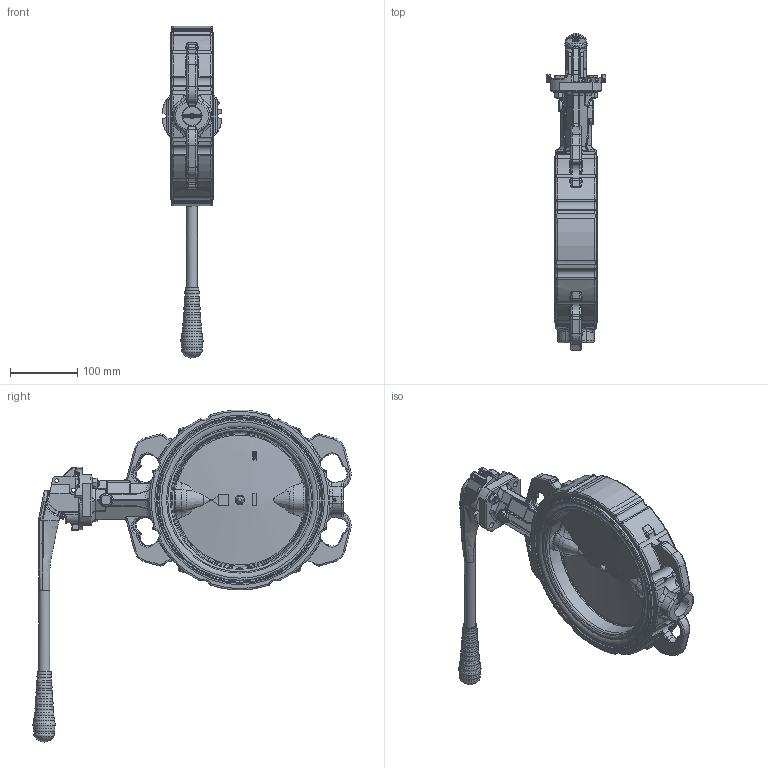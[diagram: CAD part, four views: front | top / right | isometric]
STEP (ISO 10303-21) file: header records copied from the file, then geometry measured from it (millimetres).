
FILE_DESCRIPTION((''),'2;1');
FILE_NAME('K:\Inventor\1 Artikel\10) Absperrklappen\10a) manuell\ABO Valve\890-GGG, 994B\890-GGG, DN200\890-GGG, DN200, 3D\890-GGG, DN200, PN6-16, HH, 3D.stp','2019-08-13T11:21:36',('claudia'),(''),'Autodesk Inventor 2013','Autodesk Inventor 2013','');
FILE_SCHEMA(('AUTOMOTIVE_DESIGN { 1 0 10303 214 1 1 1 1 }'));
Length unit declared in the file: millimetre
Products named in the file (1): Bauteil7
Bounding box: 89.15 x 473.39 x 494.11 mm (x, y, z)
Surface area: 337563.1 mm2
Topology: 9 solids, 11 shells, 2532 faces, 6601 edges, 4099 vertices
Faces by surface type: bspline 825, plane 779, cylinder 506, torus 290, cone 106, sphere 26
Full cylindrical faces by diameter (mm): 4 x2, 5.35 x1, 5.5 x2, 6.3 x2, 6.5 x2, 6.8 x3, 7 x2, 8 x4, 9 x4, 9.5 x1, 13 x2, 16 x2, 16.5 x2, 17.4 x1, 20.5 x1, 21.4 x1, 22 x3, 22.15 x1, 22.5 x1, 27 x2, 28 x2, 28.5 x1, 30 x1, 32 x1, 56 x1, 248 x2, 252.5 x2
Entity records: 112489 total; most frequent: CARTESIAN_POINT 56393, ORIENTED_EDGE 12740, DIRECTION 9506, EDGE_CURVE 6372, VERTEX_POINT 4042, AXIS2_PLACEMENT_3D 3547, EDGE_LOOP 2789, FACE_OUTER_BOUND 2532
